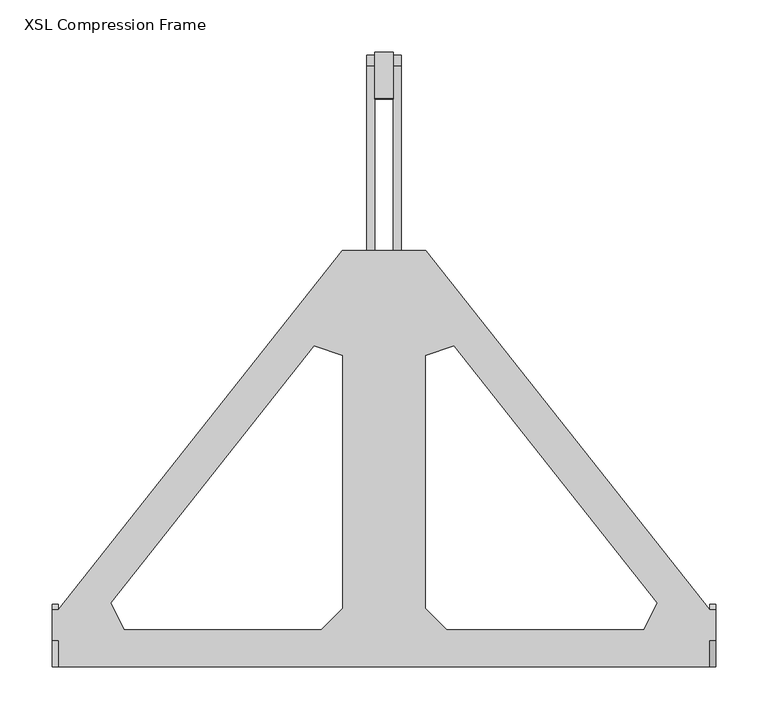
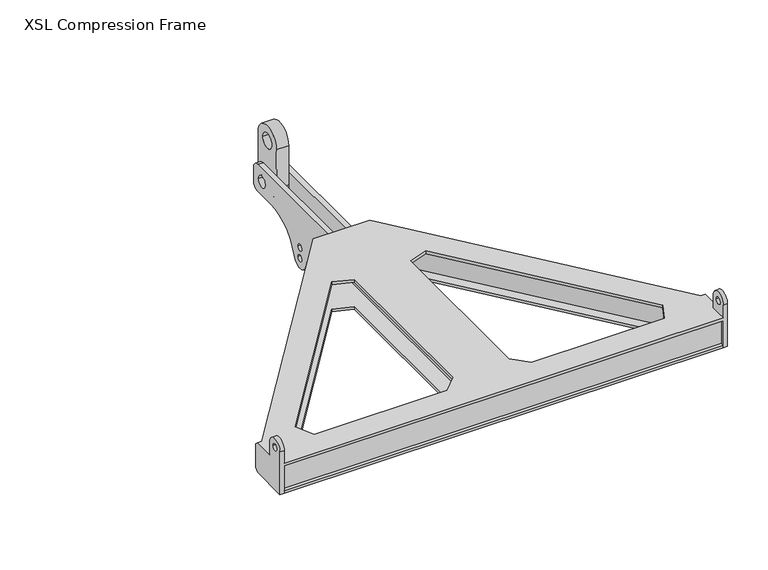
"""IFC4 building model written with IfcOpenShell, lengths in millimetres: proxy geometry, d&b SL-Series XSL Compression Frame : XSL Compression Frame."""

from ifc_helpers import new_model, si_unit, point, frame, frame_2d, origin, place, context, project, spatial, polyline, circle_curve, trimmed, segment, composite_curve, outline, extrude, source, transform, mapped, element, save
from ifc_brep_helpers import plane_surface, cylinder_surface, revolved_surface, advanced_brep


def xsl_compression_frame_79202efc(model_context):
    return source(origin(), model_context, "Body", "SolidModel", [
        extrude(outline(composite_curve([segment(trimmed(circle_curve(frame_2d((599.3839058, 25.9303421)), 22.5), [point((576.8843947, 26.0786624))], [point((621.8834169, 25.7820219))], False, "CARTESIAN"), True, "CONTINUOUS"), segment(polyline([(621.8834169, 25.7820219), (621.4947689, -33.1741246)]), True, "CONTINUOUS"), segment(trimmed(circle_curve(frame_2d((598.9952577, -33.0258044)), 22.5), [point((621.4947689, -33.1741246))], [point((576.4957466, -32.8774841))], False, "CARTESIAN"), True, "CONTINUOUS"), segment(polyline([(576.4957466, -32.8774841), (576.8843947, 26.0786624)]), True, "CONTINUOUS")], self_intersect=False), holes=[composite_curve([segment(trimmed(circle_curve(frame_2d((599.3839058, 25.9303421)), 11.0), [point((588.3839058, 25.9303421))], [point((610.3839058, 25.9303421))], True, "CARTESIAN"), True, "CONTINUOUS"), segment(trimmed(circle_curve(frame_2d((599.3839058, 25.9303421)), 11.0), [point((610.3839058, 25.9303421))], [point((588.3839058, 25.9303421))], True, "CARTESIAN"), True, "CONTINUOUS")], self_intersect=False), composite_curve([segment(trimmed(circle_curve(frame_2d((598.9954278, -33.0)), 8.25), [point((590.7454278, -33.0))], [point((607.2454278, -33.0))], True, "CARTESIAN"), True, "CONTINUOUS"), segment(trimmed(circle_curve(frame_2d((598.9954278, -33.0)), 8.25), [point((607.2454278, -33.0))], [point((590.7454278, -33.0))], True, "CARTESIAN"), True, "CONTINUOUS")], self_intersect=False)]), frame((-8.75, 0.0, 0.0), z_axis=(1.0, 0.0, 0.0), x_axis=(0.0, 1.0, 0.0)), (0.0, 0.0, 1.0), 17.5),
        extrude(outline(composite_curve([segment(polyline([(40.4954278, -50.0), (40.4954278, -13.0), (608.9954278, -13.0)]), True, "CONTINUOUS"), segment(trimmed(circle_curve(frame_2d((608.9954278, -23.0)), 10.0), [point((608.9954278, -13.0))], [point((618.9954278, -23.0))], False, "CARTESIAN"), True, "CONTINUOUS"), segment(polyline([(618.9954278, -23.0), (618.9954278, -43.0)]), True, "CONTINUOUS"), segment(trimmed(circle_curve(frame_2d((608.9954278, -43.0)), 10.0), [point((618.9954278, -43.0))], [point((608.9954278, -53.0))], False, "CARTESIAN"), True, "CONTINUOUS"), segment(polyline([(608.9954278, -53.0), (576.6961949, -53.0)]), True, "CONTINUOUS"), segment(trimmed(circle_curve(frame_2d((576.6961949, -113.0)), 60.0), [point((576.6961949, -53.0))], [point((519.3355813, -95.4))], True, "CARTESIAN"), True, "CONTINUOUS"), segment(trimmed(circle_curve(frame_2d((504.9954278, -91.0)), 15.0), [point((519.3355813, -95.4))], [point((490.4847421, -94.8))], False, "CARTESIAN"), True, "CONTINUOUS"), segment(trimmed(circle_curve(frame_2d((432.4419993, -110.0)), 60.0), [point((490.4847421, -94.8))], [point((432.4419993, -50.0))], True, "CARTESIAN"), True, "CONTINUOUS"), segment(polyline([(432.4419993, -50.0), (40.4954278, -50.0)]), True, "CONTINUOUS")], self_intersect=False), holes=[composite_curve([segment(trimmed(circle_curve(frame_2d((598.9954278, -33.0)), 8.25), [point((590.7454278, -33.0))], [point((607.2454278, -33.0))], True, "CARTESIAN"), True, "CONTINUOUS"), segment(trimmed(circle_curve(frame_2d((598.9954278, -33.0)), 8.25), [point((607.2454278, -33.0))], [point((590.7454278, -33.0))], True, "CARTESIAN"), True, "CONTINUOUS")], self_intersect=False), composite_curve([segment(trimmed(circle_curve(frame_2d((504.9954278, -91.0)), 4.75), [point((500.2454278, -91.0))], [point((509.7454278, -91.0))], True, "CARTESIAN"), True, "CONTINUOUS"), segment(trimmed(circle_curve(frame_2d((504.9954278, -91.0)), 4.75), [point((509.7454278, -91.0))], [point((500.2454278, -91.0))], True, "CARTESIAN"), True, "CONTINUOUS")], self_intersect=False), composite_curve([segment(trimmed(circle_curve(frame_2d((504.9954278, -75.0)), 4.75), [point((500.2454278, -75.0))], [point((509.7454278, -75.0))], True, "CARTESIAN"), True, "CONTINUOUS"), segment(trimmed(circle_curve(frame_2d((504.9954278, -75.0)), 4.75), [point((509.7454278, -75.0))], [point((500.2454278, -75.0))], True, "CARTESIAN"), True, "CONTINUOUS")], self_intersect=False)]), frame((-16.75, 0.0, 0.0), z_axis=(1.0, 0.0, 0.0), x_axis=(0.0, 1.0, 0.0)), (0.0, 0.0, 1.0), 8.0),
        extrude(outline(composite_curve([segment(polyline([(40.4954278, -50.0), (40.4954278, -13.0), (608.9954278, -13.0)]), True, "CONTINUOUS"), segment(trimmed(circle_curve(frame_2d((608.9954278, -23.0)), 10.0), [point((608.9954278, -13.0))], [point((618.9954278, -23.0))], False, "CARTESIAN"), True, "CONTINUOUS"), segment(polyline([(618.9954278, -23.0), (618.9954278, -43.0)]), True, "CONTINUOUS"), segment(trimmed(circle_curve(frame_2d((608.9954278, -43.0)), 10.0), [point((618.9954278, -43.0))], [point((608.9954278, -53.0))], False, "CARTESIAN"), True, "CONTINUOUS"), segment(polyline([(608.9954278, -53.0), (576.6961949, -53.0)]), True, "CONTINUOUS"), segment(trimmed(circle_curve(frame_2d((576.6961949, -113.0)), 60.0), [point((576.6961949, -53.0))], [point((519.3355813, -95.4))], True, "CARTESIAN"), True, "CONTINUOUS"), segment(trimmed(circle_curve(frame_2d((504.9954278, -91.0)), 15.0), [point((519.3355813, -95.4))], [point((490.4847421, -94.8))], False, "CARTESIAN"), True, "CONTINUOUS"), segment(trimmed(circle_curve(frame_2d((432.4419993, -110.0)), 60.0), [point((490.4847421, -94.8))], [point((432.4419993, -50.0))], True, "CARTESIAN"), True, "CONTINUOUS"), segment(polyline([(432.4419993, -50.0), (40.4954278, -50.0)]), True, "CONTINUOUS")], self_intersect=False), holes=[composite_curve([segment(trimmed(circle_curve(frame_2d((598.9954278, -33.0)), 8.25), [point((590.7454278, -33.0))], [point((607.2454278, -33.0))], True, "CARTESIAN"), True, "CONTINUOUS"), segment(trimmed(circle_curve(frame_2d((598.9954278, -33.0)), 8.25), [point((607.2454278, -33.0))], [point((590.7454278, -33.0))], True, "CARTESIAN"), True, "CONTINUOUS")], self_intersect=False), composite_curve([segment(trimmed(circle_curve(frame_2d((504.9954278, -91.0)), 4.75), [point((500.2454278, -91.0))], [point((509.7454278, -91.0))], True, "CARTESIAN"), True, "CONTINUOUS"), segment(trimmed(circle_curve(frame_2d((504.9954278, -91.0)), 4.75), [point((509.7454278, -91.0))], [point((500.2454278, -91.0))], True, "CARTESIAN"), True, "CONTINUOUS")], self_intersect=False), composite_curve([segment(trimmed(circle_curve(frame_2d((504.9954278, -75.0)), 4.75), [point((500.2454278, -75.0))], [point((509.7454278, -75.0))], True, "CARTESIAN"), True, "CONTINUOUS"), segment(trimmed(circle_curve(frame_2d((504.9954278, -75.0)), 4.75), [point((509.7454278, -75.0))], [point((500.2454278, -75.0))], True, "CARTESIAN"), True, "CONTINUOUS")], self_intersect=False)]), frame((8.75, 0.0, 0.0), z_axis=(1.0, 0.0, 0.0), x_axis=(0.0, 1.0, 0.0)), (0.0, 0.0, 1.0), 8.0),
        advanced_brep(
        [(-40.0, 431.4954278, -13.0), (40.0, 431.4954278, -13.0), (312.5, 86.4954278, -13.0), (312.5, 31.4954278, -13.0), (-312.5, 31.4954278, -13.0), (-312.5, 86.4954278, -13.0), (-66.7188112, 339.5873738, -13.0), (-261.5266507, 92.9499256, -13.0), (-249.1950433, 67.4954278, -13.0), (-60.0, 67.4954278, -13.0), (-40.0, 87.4954278, -13.0), (-40.0, 330.308089, -13.0), (40.0, 87.4954278, -13.0), (60.0, 67.4954278, -13.0), (249.1950433, 67.4954278, -13.0), (261.5266507, 92.9499256, -13.0), (66.7188112, 339.5873738, -13.0), (40.0, 330.308089, -13.0), (-40.0, 431.4954278, -9.0), (-312.5, 86.4954278, -9.0), (-318.5, 86.4954278, -9.0), (-318.5, 56.4954278, -9.0), (-312.5, 56.4954278, -9.0), (-312.5, 31.4954278, -9.0), (312.5, 31.4954278, -9.0), (312.5, 56.4954278, -9.0), (318.5, 56.4954278, -9.0), (318.5, 86.4954278, -9.0), (312.5, 86.4954278, -9.0), (40.0, 431.4954278, -9.0), (-66.7188112, 339.5873738, -9.0), (-40.0, 330.308089, -9.0), (-40.0, 87.4954278, -9.0), (-60.0, 67.4954278, -9.0), (-249.1950433, 67.4954278, -9.0), (-261.5266507, 92.9499256, -9.0), (40.0, 87.4954278, -9.0), (40.0, 330.308089, -9.0), (66.7188112, 339.5873738, -9.0), (261.5266507, 92.9499256, -9.0), (249.1950433, 67.4954278, -9.0), (60.0, 67.4954278, -9.0), (-312.5, 91.4954278, -14.0), (-312.5, 31.4954278, -54.0), (-312.5, 86.4954278, -54.0), (-312.5, 91.4954278, -49.0), (-312.5, 56.4954278, 10.2302204), (-312.5, 31.4954278, 10.2302204), (-312.5, 48.7454278, 9.5), (-312.5, 39.2454278, 9.5), (-318.5, 91.4954278, -14.0), (-318.5, 91.4954278, -49.0), (-318.5, 86.4954278, -54.0), (-318.5, 31.4954278, -54.0), (-318.5, 31.4954278, 10.2302204), (-318.5, 56.4954278, 10.2302204), (-318.5, 48.7454278, 9.5), (-318.5, 39.2454278, 9.5), (312.5, 31.4954278, -54.0), (318.5, 31.4954278, -54.0), (318.5, 31.4954278, 10.2302204), (312.5, 31.4954278, 10.2302204), (312.5, 91.4954278, -14.0), (312.5, 91.4954278, -49.0), (312.5, 86.4954278, -54.0), (312.5, 56.4954278, 10.2302204), (312.5, 48.7454278, 9.5), (312.5, 39.2454278, 9.5), (318.5, 91.4954278, -14.0), (318.5, 56.4954278, 10.2302204), (318.5, 86.4954278, -54.0), (318.5, 91.4954278, -49.0), (318.5, 48.7454278, 9.5), (318.5, 39.2454278, 9.5)],
        [
            (0, 1),
            (1, 2),
            (2, 3),
            (3, 4),
            (4, 5),
            (5, 0),
            (6, 7),
            (7, 8),
            (8, 9),
            (9, 10),
            (10, 11),
            (11, 6),
            (12, 13),
            (13, 14),
            (14, 15),
            (15, 16),
            (16, 17),
            (17, 12),
            (18, 19),
            (19, 20),
            (20, 21),
            (21, 22),
            (22, 23),
            (23, 24),
            (24, 25),
            (25, 26),
            (26, 27),
            (27, 28),
            (28, 29),
            (29, 18),
            (30, 31),
            (31, 32),
            (32, 33),
            (33, 34),
            (34, 35),
            (35, 30),
            (36, 37),
            (37, 38),
            (38, 39),
            (39, 40),
            (40, 41),
            (41, 36),
            (42, 19),
            (19, 5),
            (4, 43),
            (43, 44),
            (44, 45),
            (45, 42),
            (22, 46),
            (46, 47, circle_curve(frame((-312.5, 43.9954278, 10.2302204), z_axis=(1.0, 0.0, 0.0), x_axis=(0.0, -1.0, 0.0)), 12.5)),
            (47, 23),
            (48, 49, circle_curve(frame((-312.5, 43.9954278, 9.5), z_axis=(-1.0, 0.0, 0.0), x_axis=(0.0, -1.0, 0.0)), 4.75)),
            (49, 48, circle_curve(frame((-312.5, 43.9954278, 9.5), z_axis=(-1.0, 0.0, 0.0), x_axis=(0.0, -1.0, 0.0)), 4.75)),
            (50, 51),
            (51, 52),
            (52, 53),
            (53, 54),
            (54, 55, circle_curve(frame((-318.5, 43.9954278, 10.2302204), z_axis=(-1.0, 0.0, 0.0), x_axis=(0.0, -1.0, 0.0)), 12.5)),
            (55, 21),
            (20, 50),
            (56, 57, circle_curve(frame((-318.5, 43.9954278, 9.5), z_axis=(1.0, 0.0, 0.0), x_axis=(0.0, -1.0, 0.0)), 4.75)),
            (57, 56, circle_curve(frame((-318.5, 43.9954278, 9.5), z_axis=(1.0, 0.0, 0.0), x_axis=(0.0, -1.0, 0.0)), 4.75)),
            (42, 50),
            (55, 46),
            (54, 47),
            (43, 53),
            (52, 44),
            (51, 45),
            (11, 31),
            (30, 6),
            (10, 32),
            (9, 33),
            (8, 34),
            (7, 35),
            (18, 0),
            (3, 58),
            (58, 59),
            (59, 60),
            (60, 61),
            (61, 24),
            (1, 29),
            (28, 2),
            (17, 37),
            (36, 12),
            (16, 38),
            (15, 39),
            (14, 40),
            (13, 41),
            (62, 63),
            (63, 64),
            (64, 58),
            (28, 62),
            (61, 65, circle_curve(frame((312.5, 43.9954278, 10.2302204), z_axis=(-1.0, 0.0, 0.0), x_axis=(0.0, -1.0, 0.0)), 12.5)),
            (65, 25),
            (66, 67, circle_curve(frame((312.5, 43.9954278, 9.5), z_axis=(1.0, 0.0, 0.0), x_axis=(0.0, -1.0, 0.0)), 4.75)),
            (67, 66, circle_curve(frame((312.5, 43.9954278, 9.5), z_axis=(1.0, 0.0, 0.0), x_axis=(0.0, -1.0, 0.0)), 4.75)),
            (68, 27),
            (26, 69),
            (69, 60, circle_curve(frame((318.5, 43.9954278, 10.2302204), z_axis=(1.0, 0.0, 0.0), x_axis=(0.0, -1.0, 0.0)), 12.5)),
            (59, 70),
            (70, 71),
            (71, 68),
            (72, 73, circle_curve(frame((318.5, 43.9954278, 9.5), z_axis=(-1.0, 0.0, 0.0), x_axis=(0.0, -1.0, 0.0)), 4.75)),
            (73, 72, circle_curve(frame((318.5, 43.9954278, 9.5), z_axis=(-1.0, 0.0, 0.0), x_axis=(0.0, -1.0, 0.0)), 4.75)),
            (68, 62),
            (65, 69),
            (64, 70),
            (63, 71),
            (48, 56),
            (57, 49),
            (66, 72),
            (73, 67),
        ],
        [
            plane_surface(frame((-66.7188112, 339.5873738, -13.0), z_axis=(0.0, 0.0, -1.0), x_axis=(-0.9446526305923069, 0.32807225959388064, 0.0))),
            plane_surface(frame((-66.7188112, 339.5873738, -9.0), z_axis=(0.0, 0.0, 1.0), x_axis=(0.9446526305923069, -0.32807225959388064, 0.0))),
            plane_surface(frame((-312.5, 91.4954278, -14.0), z_axis=(1.0, 0.0, 0.0), x_axis=(0.0, -0.7071067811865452, 0.7071067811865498))),
            plane_surface(frame((-318.5, 91.4954278, -14.0), z_axis=(-1.0, 0.0, 0.0), x_axis=(0.0, 0.7071067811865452, -0.7071067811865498))),
            plane_surface(frame((-312.5, 91.4954278, -14.0), z_axis=(0.0, 0.7071067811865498, 0.7071067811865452), x_axis=(-1.0, 0.0, 0.0))),
            plane_surface(frame((-312.5, 56.4954278, -9.0), z_axis=(0.0, 1.0, 0.0), x_axis=(-1.0, 0.0, 0.0))),
            cylinder_surface(frame((-318.5, 43.9954278, 10.2302204), z_axis=(1.0, 0.0, 0.0), x_axis=(0.0, -1.0, 0.0)), 12.5),
            plane_surface(frame((-312.5, 31.4954278, -54.0), z_axis=(0.0, 0.0, -1.0), x_axis=(-1.0, 0.0, 0.0))),
            plane_surface(frame((-312.5, 86.4954278, -54.0), z_axis=(0.0, 0.7071067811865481, -0.707106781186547), x_axis=(-1.0, 0.0, 0.0))),
            plane_surface(frame((-312.5, 91.4954278, -49.0), z_axis=(0.0, 1.0, 0.0), x_axis=(-1.0, 0.0, 0.0))),
            plane_surface(frame((-66.7188112, 339.5873738, -9.0), z_axis=(-0.32807225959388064, -0.9446526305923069, 0.0), x_axis=(0.0, 0.0, -1.0))),
            plane_surface(frame((-40.0, 330.308089, -9.0), z_axis=(-1.0, 0.0, 0.0), x_axis=(0.0, 0.0, -1.0))),
            plane_surface(frame((-40.0, 87.4954278, -9.0), z_axis=(-0.7071067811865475, 0.7071067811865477, 0.0), x_axis=(0.0, 0.0, -1.0))),
            plane_surface(frame((-60.0, 67.4954278, -9.0), z_axis=(0.0, 1.0, 0.0), x_axis=(0.0, 0.0, -1.0))),
            plane_surface(frame((-249.1950433, 67.4954278, -9.0), z_axis=(0.8999524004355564, 0.43598816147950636, 0.0), x_axis=(0.0, 0.0, -1.0))),
            plane_surface(frame((-261.5266507, 92.9499256, -9.0), z_axis=(0.7847371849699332, -0.6198286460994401, 0.0), x_axis=(0.0, 0.0, -1.0))),
            plane_surface(frame((-40.0, 431.4954278, -9.0), z_axis=(-0.7847371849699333, 0.6198286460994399, 0.0), x_axis=(0.0, 0.0, -1.0))),
            plane_surface(frame((-312.5, 31.4954278, -9.0), z_axis=(0.0, -1.0, 0.0), x_axis=(0.0, 0.0, -1.0))),
            plane_surface(frame((312.5, 86.4954278, -9.0), z_axis=(0.7847371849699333, 0.6198286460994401, 0.0), x_axis=(0.0, 0.0, -1.0))),
            plane_surface(frame((40.0, 431.4954278, -9.0), z_axis=(0.0, 1.0, 0.0), x_axis=(0.0, 0.0, -1.0))),
            plane_surface(frame((40.0, 87.4954278, -9.0), z_axis=(1.0, 0.0, 0.0), x_axis=(0.0, 0.0, -1.0))),
            plane_surface(frame((40.0, 330.308089, -9.0), z_axis=(0.3280722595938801, -0.9446526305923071, 0.0), x_axis=(0.0, 0.0, -1.0))),
            plane_surface(frame((66.7188112, 339.5873738, -9.0), z_axis=(-0.784737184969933, -0.6198286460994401, 0.0), x_axis=(0.0, 0.0, -1.0))),
            plane_surface(frame((261.5266507, 92.9499256, -9.0), z_axis=(-0.8999524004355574, 0.4359881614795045, 0.0), x_axis=(0.0, 0.0, -1.0))),
            plane_surface(frame((249.1950433, 67.4954278, -9.0), z_axis=(0.0, 1.0, 0.0), x_axis=(0.0, 0.0, -1.0))),
            plane_surface(frame((60.0, 67.4954278, -9.0), z_axis=(0.7071067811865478, 0.7071067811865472, 0.0), x_axis=(0.0, 0.0, -1.0))),
            plane_surface(frame((312.5, 91.4954278, -49.0), z_axis=(-1.0, 0.0, 0.0), x_axis=(0.0, 0.0, -1.0))),
            plane_surface(frame((318.5, 91.4954278, -49.0), z_axis=(1.0, 0.0, 0.0), x_axis=(0.0, 0.0, 1.0))),
            plane_surface(frame((312.5, 86.4954278, -9.0), z_axis=(0.0, 0.7071067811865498, 0.7071067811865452), x_axis=(1.0, 0.0, 0.0))),
            plane_surface(frame((312.5, 56.4954278, 10.2302204), z_axis=(0.0, 1.0, 0.0), x_axis=(1.0, 0.0, 0.0))),
            cylinder_surface(frame((318.5, 43.9954278, 10.2302204), z_axis=(-1.0, 0.0, 0.0), x_axis=(0.0, -1.0, 0.0)), 12.5),
            plane_surface(frame((312.5, 86.4954278, -54.0), z_axis=(0.0, 0.0, -1.0), x_axis=(1.0, 0.0, 0.0))),
            plane_surface(frame((312.5, 91.4954278, -49.0), z_axis=(0.0, 0.7071067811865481, -0.707106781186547), x_axis=(1.0, 0.0, 0.0))),
            plane_surface(frame((312.5, 91.4954278, -14.0), z_axis=(0.0, 1.0, 0.0), x_axis=(1.0, 0.0, 0.0))),
            revolved_surface(polyline([(-318.5, 39.2454278, 9.5), (-312.5, 39.2454278, 9.5)]), (-318.5, 43.9954278, 9.5), (-1.0, 0.0, 0.0)),
            revolved_surface(polyline([(318.5, 39.2454278, 9.5), (312.5, 39.2454278, 9.5)]), (318.5, 43.9954278, 9.5), (1.0, 0.0, 0.0)),
        ],
        [
            (0, [[1, 2, 3, 4, 5, 6], [7, 8, 9, 10, 11, 12], [13, 14, 15, 16, 17, 18]]),
            (1, [[19, 20, 21, 22, 23, 24, 25, 26, 27, 28, 29, 30], [31, 32, 33, 34, 35, 36], [37, 38, 39, 40, 41, 42]]),
            (2, [[43, 44, -5, 45, 46, 47, 48]]),
            (2, [[49, 50, 51, -23], [52, 53]]),
            (3, [[54, 55, 56, 57, 58, 59, -21, 60], [61, 62]]),
            (4, [[-43, 63, -60, -20]]),
            (5, [[-49, -22, -59, 64]]),
            (6, [[-50, -64, -58, 65]]),
            (7, [[-46, 66, -56, 67]]),
            (8, [[-47, -67, -55, 68]]),
            (9, [[-48, -68, -54, -63]]),
            (10, [[-12, 69, -31, 70]]),
            (11, [[-11, 71, -32, -69]]),
            (12, [[-10, 72, -33, -71]]),
            (13, [[-9, 73, -34, -72]]),
            (14, [[-8, 74, -35, -73]]),
            (15, [[-7, -70, -36, -74]]),
            (16, [[-6, -44, -19, 75]]),
            (17, [[-4, 76, 77, 78, 79, 80, -24, -51, -65, -57, -66, -45]]),
            (18, [[-2, 81, -29, 82]]),
            (19, [[-1, -75, -30, -81]]),
            (20, [[-18, 83, -37, 84]]),
            (21, [[-17, 85, -38, -83]]),
            (22, [[-16, 86, -39, -85]]),
            (23, [[-15, 87, -40, -86]]),
            (24, [[-14, 88, -41, -87]]),
            (25, [[-13, -84, -42, -88]]),
            (26, [[89, 90, 91, -76, -3, -82, 92]]),
            (26, [[93, 94, -25, -80], [95, 96]]),
            (27, [[97, -27, 98, 99, -78, 100, 101, 102], [103, 104]]),
            (28, [[-92, -28, -97, 105]]),
            (29, [[-94, 106, -98, -26]]),
            (30, [[-93, -79, -99, -106]]),
            (31, [[-91, 107, -100, -77]]),
            (32, [[-90, 108, -101, -107]]),
            (33, [[-89, -105, -102, -108]]),
            (34, [[-52, 109, -62, 110]]),
            (34, [[-53, -110, -61, -109]]),
            (35, [[-95, 111, -104, 112]]),
            (35, [[-96, -112, -103, -111]]),
        ],
    ),
        extrude(outline(polyline([(-291.9227225, 77.0537133), (-295.0616712, 79.5330278), (-27.2956961, 418.5394918), (-24.1567474, 416.0601772), (-291.9227225, 77.0537133)])), frame((0.0, 0.0, -50.0), z_axis=(0.0, 0.0, 1.0), x_axis=(1.0, 0.0, 0.0)), (0.0, 0.0, 1.0), 37.0),
        extrude(outline(polyline([(24.1567474, 416.0601772), (27.2956961, 418.5394918), (295.0616712, 79.5330278), (291.9227225, 77.0537133), (24.1567474, 416.0601772)])), frame((0.0, 0.0, -50.0), z_axis=(0.0, 0.0, 1.0), x_axis=(1.0, 0.0, 0.0)), (0.0, 0.0, 1.0), 37.0),
        extrude(outline(polyline([(312.5, 35.9954278), (-312.5, 35.9954278), (-312.5, 40.4954278), (312.5, 40.4954278), (312.5, 35.9954278)])), frame((0.0, 0.0, -50.0), z_axis=(0.0, 0.0, 1.0), x_axis=(1.0, 0.0, 0.0)), (0.0, 0.0, 1.0), 37.0),
        extrude(outline(polyline([(-40.0, 431.4954278), (40.0, 431.4954278), (312.5, 86.4954278), (312.5, 31.4954278), (-312.5, 31.4954278), (-312.5, 86.4954278), (-40.0, 431.4954278)]), holes=[polyline([(-66.7188112, 339.5873738), (-261.5266507, 92.9499256), (-249.1950433, 67.4954278), (-60.0, 67.4954278), (-40.0, 87.4954278), (-40.0, 330.308089), (-66.7188112, 339.5873738)]), polyline([(40.0, 87.4954278), (60.0, 67.4954278), (249.1950433, 67.4954278), (261.5266507, 92.9499256), (66.7188112, 339.5873738), (40.0, 330.308089), (40.0, 87.4954278)])]), frame((0.0, 0.0, -54.0), z_axis=(0.0, 0.0, 1.0), x_axis=(1.0, 0.0, 0.0)), (0.0, 0.0, 1.0), 4.0),
    ])


if __name__ == "__main__":
    model = new_model("IFC4")
    model_context = context("Model", 3, world=origin())
    ifc_project = project(units=[si_unit("LENGTHUNIT", "METRE", prefix="MILLI")], contexts=[model_context])
    site = spatial("IfcSite", under=ifc_project)
    building = spatial("IfcBuilding", under=site)
    placement = place(None, origin())
    xsl_compression_frame_shape = xsl_compression_frame_79202efc(model_context)
    element("IfcBuildingElementProxy", 1, Name="d&b SL-Series XSL Compression Frame : XSL Compression Frame", ObjectType="d&b SL-Series XSL Compression Frame : XSL Compression Frame", at=placement, inside=building, context=model_context, shape_type="MappedRepresentation", body=[
        mapped(xsl_compression_frame_shape, transform((0.0, 0.0, 0.0), x_axis=(1.0, 0.0, 0.0), y_axis=(0.0, 1.0, 0.0), z_axis=(0.0, 0.0, 1.0))),
    ])
    save(model, "model.ifc")
